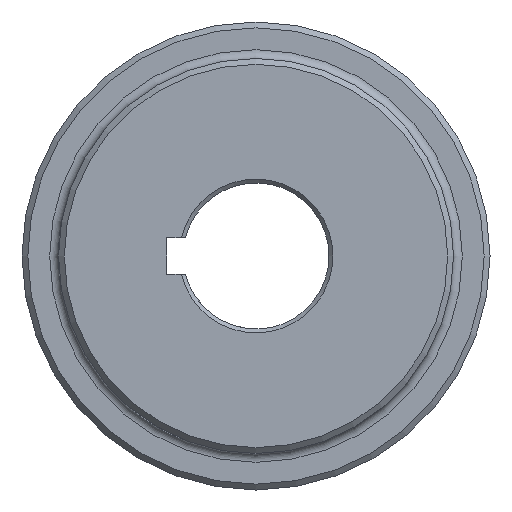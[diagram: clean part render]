
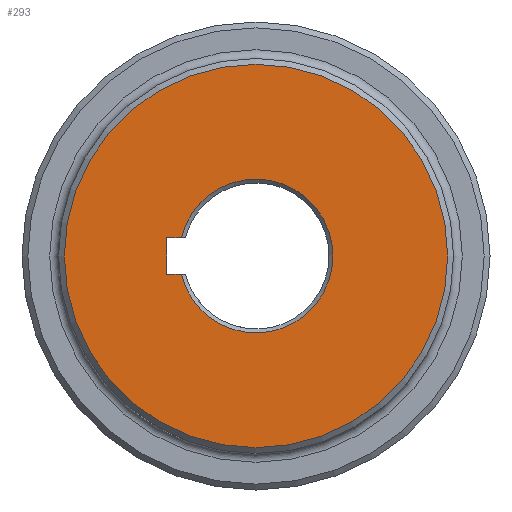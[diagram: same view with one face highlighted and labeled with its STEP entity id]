
A CAD part, left-side view. The second image highlights one B-rep face of the part: STEP entity #293.
In plain terms, the highlighted planar face has unit normal (-1, 0, 0).
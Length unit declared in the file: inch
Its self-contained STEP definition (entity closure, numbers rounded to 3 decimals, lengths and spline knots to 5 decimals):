
#6 = AXIS2_PLACEMENT_3D ( 'NONE', #766, #2321, #260 ) ;
#51 = CARTESIAN_POINT ( 'NONE',  ( 0., 0., -0.1875 ) ) ;
#68 = ORIENTED_EDGE ( 'NONE', *, *, #311, .F. ) ;
#92 = CARTESIAN_POINT ( 'NONE',  ( 0., 0., -1.97 ) ) ;
#106 = VERTEX_POINT ( 'NONE', #1742 ) ;
#152 = ORIENTED_EDGE ( 'NONE', *, *, #1627, .F. ) ;
#161 = DIRECTION ( 'NONE',  ( 0., 0., -1. ) ) ;
#211 = VERTEX_POINT ( 'NONE', #2614 ) ;
#240 = EDGE_CURVE ( 'NONE', #106, #945, #324, .T. ) ;
#250 = CIRCLE ( 'NONE', #2236, 0.79025 ) ;
#260 = DIRECTION ( 'NONE',  ( 0., 0., -1. ) ) ;
#293 = ADVANCED_FACE ( 'NONE', ( #1258, #483 ), #2034, .F. ) ;
#311 = EDGE_CURVE ( 'NONE', #1202, #211, #2789, .T. ) ;
#321 = VECTOR ( 'NONE', #1748, 39.37008 ) ;
#324 = LINE ( 'NONE', #51, #1049 ) ;
#344 = CARTESIAN_POINT ( 'NONE',  ( 0., 0., 0.1875 ) ) ;
#349 = DIRECTION ( 'NONE',  ( 1., 0., 0. ) ) ;
#449 = CARTESIAN_POINT ( 'NONE',  ( 0., 0.91975, -0.1875 ) ) ;
#483 = FACE_BOUND ( 'NONE', #2655, .T. ) ;
#624 = CIRCLE ( 'NONE', #2585, 1.97 ) ;
#766 = CARTESIAN_POINT ( 'NONE',  ( 0., 0., 0. ) ) ;
#838 = DIRECTION ( 'NONE',  ( -1., 0., 0. ) ) ;
#872 = DIRECTION ( 'NONE',  ( 0., -1., 0. ) ) ;
#945 = VERTEX_POINT ( 'NONE', #2210 ) ;
#1049 = VECTOR ( 'NONE', #872, 39.37008 ) ;
#1181 = DIRECTION ( 'NONE',  ( 0., 0., -1. ) ) ;
#1202 = VERTEX_POINT ( 'NONE', #2144 ) ;
#1258 = FACE_OUTER_BOUND ( 'NONE', #2015, .T. ) ;
#1295 = VECTOR ( 'NONE', #2039, 39.37008 ) ;
#1394 = VERTEX_POINT ( 'NONE', #92 ) ;
#1416 = ORIENTED_EDGE ( 'NONE', *, *, #2607, .T. ) ;
#1627 = EDGE_CURVE ( 'NONE', #211, #106, #1657, .T. ) ;
#1657 = LINE ( 'NONE', #449, #321 ) ;
#1742 = CARTESIAN_POINT ( 'NONE',  ( 0., 0.91975, -0.1875 ) ) ;
#1748 = DIRECTION ( 'NONE',  ( 0., 0., -1. ) ) ;
#1749 = ORIENTED_EDGE ( 'NONE', *, *, #240, .F. ) ;
#1812 = CARTESIAN_POINT ( 'NONE',  ( 0., 0., 0. ) ) ;
#2015 = EDGE_LOOP ( 'NONE', ( #2157 ) ) ;
#2034 = PLANE ( 'NONE',  #6 ) ;
#2039 = DIRECTION ( 'NONE',  ( 0., 1., 0. ) ) ;
#2144 = CARTESIAN_POINT ( 'NONE',  ( 0., 0.76768, 0.1875 ) ) ;
#2157 = ORIENTED_EDGE ( 'NONE', *, *, #2250, .T. ) ;
#2210 = CARTESIAN_POINT ( 'NONE',  ( 0., 0.76768, -0.1875 ) ) ;
#2236 = AXIS2_PLACEMENT_3D ( 'NONE', #2330, #349, #1181 ) ;
#2250 = EDGE_CURVE ( 'NONE', #1394, #1394, #624, .T. ) ;
#2321 = DIRECTION ( 'NONE',  ( 1., 0., 0. ) ) ;
#2330 = CARTESIAN_POINT ( 'NONE',  ( 0., 0., 0. ) ) ;
#2585 = AXIS2_PLACEMENT_3D ( 'NONE', #1812, #838, #161 ) ;
#2607 = EDGE_CURVE ( 'NONE', #1202, #945, #250, .T. ) ;
#2614 = CARTESIAN_POINT ( 'NONE',  ( 0., 0.91975, 0.1875 ) ) ;
#2655 = EDGE_LOOP ( 'NONE', ( #68, #1416, #1749, #152 ) ) ;
#2789 = LINE ( 'NONE', #344, #1295 ) ;
